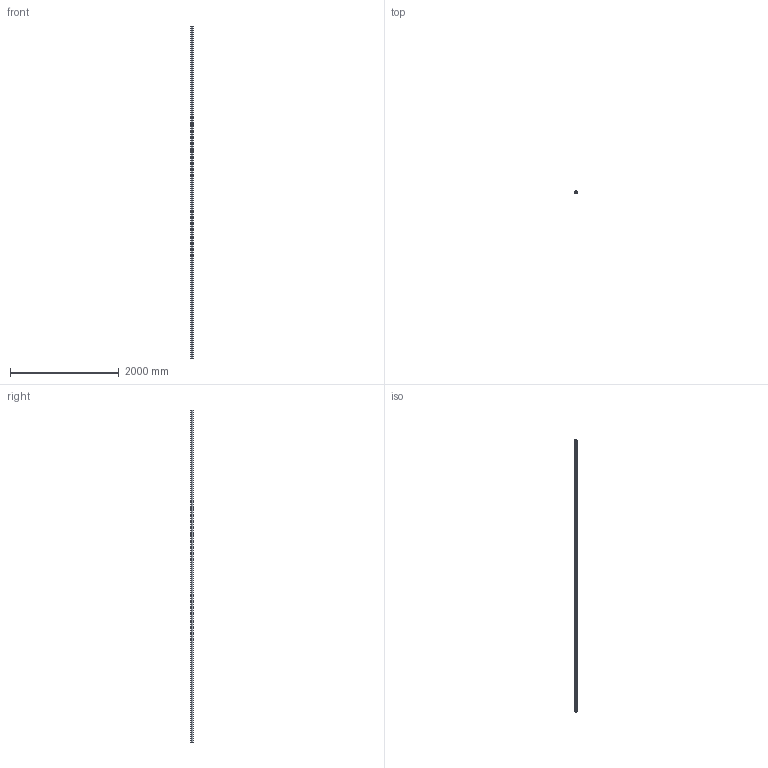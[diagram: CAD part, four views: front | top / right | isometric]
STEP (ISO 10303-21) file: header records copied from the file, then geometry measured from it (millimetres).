
FILE_DESCRIPTION (( 'STEP AP203' ), '1' );
FILE_NAME ('45 X 180 mm.STEP', '2012-05-29T22:35:25', ( '' ), ( '' ), 'SwSTEP 2.0', 'SolidWorks 2010', '' );
FILE_SCHEMA (( 'CONFIG_CONTROL_DESIGN' ));
Length unit declared in the file: inch
Products named in the file (1): 45 X 180 mm
Bounding box: 45 x 44.43 x 6100 mm (x, y, z)
Volume: 3110056.2 mm3; surface area: 3212531.4 mm2
Topology: 1 solids, 1 shells, 203 faces, 603 edges, 402 vertices
Faces by surface type: cylinder 124, plane 79
Entity records: 7000 total; most frequent: DIRECTION 1259, CARTESIAN_POINT 1209, ORIENTED_EDGE 1206, EDGE_CURVE 603, AXIS2_PLACEMENT_3D 452, VERTEX_POINT 402, LINE 355, VECTOR 355
